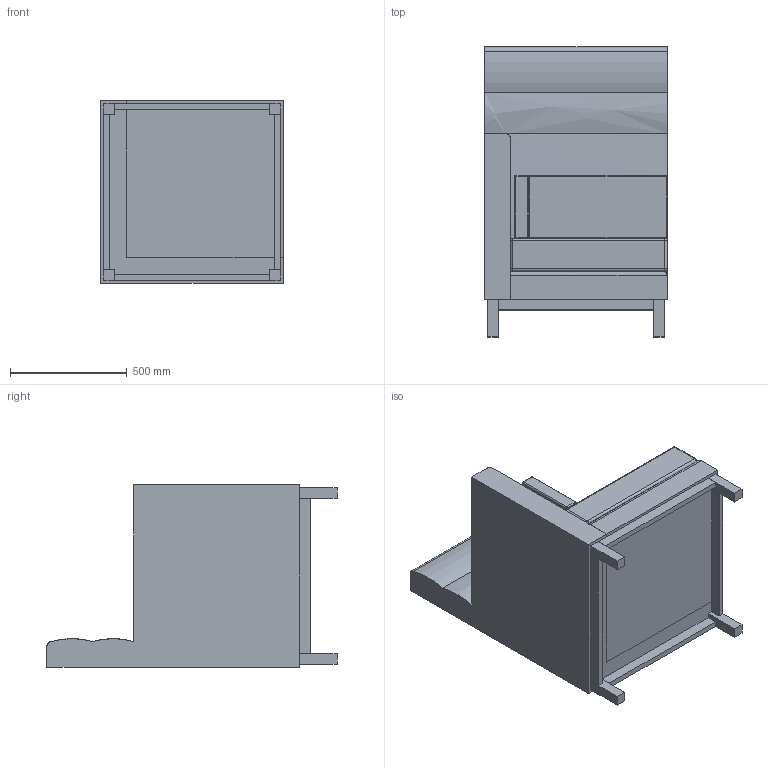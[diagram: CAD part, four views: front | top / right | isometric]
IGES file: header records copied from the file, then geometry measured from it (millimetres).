
Start section: SolidWorks IGES file using analytic representation for surfaces
Global section: file name: P:\3D CAD BLOCKS\ARTHUR CITYSCAPE\Dual Height Bumped Corner RH\IGS\ART-DH-BUMP-RH-ART-CITY-CORNER.IGS; native system: SolidWorks 2012; preprocessor: SolidWorks 2012; author: tom; date: 160523.090248; units: millimetre
Bounding box: 780 x 1240 x 780 mm (x, y, z)
Surface area: 7018134.8 mm2 (no closed solid volume)
Topology: 0 solids, 0 shells, 148 faces, 709 edges, 703 vertices
Faces by surface type: bspline 81, revolution 67
